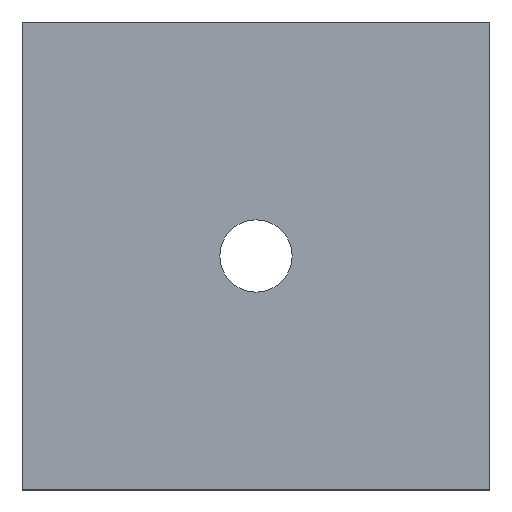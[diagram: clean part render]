
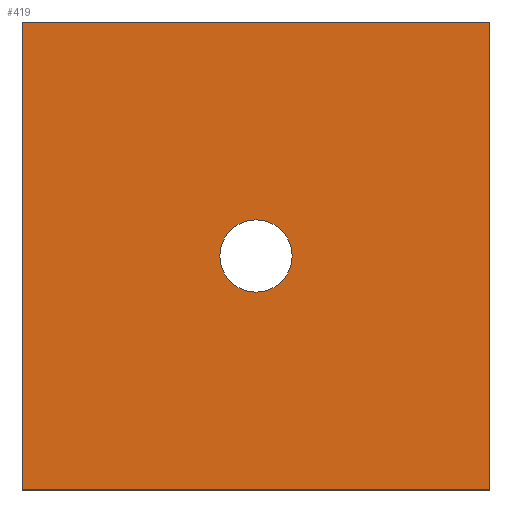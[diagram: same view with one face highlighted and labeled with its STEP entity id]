
A CAD part, top view. The second image highlights one B-rep face of the part: STEP entity #419.
In plain terms, the highlighted planar face has unit normal (0, 0, 1).
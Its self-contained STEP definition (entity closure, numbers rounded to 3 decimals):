
#24 = VERTEX_POINT('',#25);
#25 = CARTESIAN_POINT('',(-841.,-841.,3.));
#32 = PLANE('',#33);
#33 = AXIS2_PLACEMENT_3D('',#34,#35,#36);
#34 = CARTESIAN_POINT('',(-841.,-841.,0.));
#35 = DIRECTION('',(0.,1.,0.));
#36 = DIRECTION('',(1.,0.,0.));
#44 = PLANE('',#45);
#45 = AXIS2_PLACEMENT_3D('',#46,#47,#48);
#46 = CARTESIAN_POINT('',(-841.,841.,0.));
#47 = DIRECTION('',(1.,0.,-0.));
#48 = DIRECTION('',(0.,-1.,0.));
#56 = EDGE_CURVE('',#24,#57,#59,.T.);
#57 = VERTEX_POINT('',#58);
#58 = CARTESIAN_POINT('',(841.,-841.,3.));
#59 = SURFACE_CURVE('',#60,(#64,#71),.PCURVE_S1.);
#60 = LINE('',#61,#62);
#61 = CARTESIAN_POINT('',(-841.,-841.,3.));
#62 = VECTOR('',#63,1.);
#63 = DIRECTION('',(1.,0.,0.));
#64 = PCURVE('',#32,#65);
#65 = DEFINITIONAL_REPRESENTATION('',(#66),#70);
#66 = LINE('',#67,#68);
#67 = CARTESIAN_POINT('',(0.,-3.));
#68 = VECTOR('',#69,1.);
#69 = DIRECTION('',(1.,0.));
#70 = ( GEOMETRIC_REPRESENTATION_CONTEXT(2) 
PARAMETRIC_REPRESENTATION_CONTEXT() REPRESENTATION_CONTEXT('2D SPACE',''
  ) );
#71 = PCURVE('',#72,#77);
#72 = PLANE('',#73);
#73 = AXIS2_PLACEMENT_3D('',#74,#75,#76);
#74 = CARTESIAN_POINT('',(0.,0.,3.));
#75 = DIRECTION('',(0.,0.,1.));
#76 = DIRECTION('',(1.,0.,-0.));
#77 = DEFINITIONAL_REPRESENTATION('',(#78),#82);
#78 = LINE('',#79,#80);
#79 = CARTESIAN_POINT('',(-841.,-841.));
#80 = VECTOR('',#81,1.);
#81 = DIRECTION('',(1.,0.));
#82 = ( GEOMETRIC_REPRESENTATION_CONTEXT(2) 
PARAMETRIC_REPRESENTATION_CONTEXT() REPRESENTATION_CONTEXT('2D SPACE',''
  ) );
#100 = PLANE('',#101);
#101 = AXIS2_PLACEMENT_3D('',#102,#103,#104);
#102 = CARTESIAN_POINT('',(841.,-841.,0.));
#103 = DIRECTION('',(-1.,0.,0.));
#104 = DIRECTION('',(0.,1.,0.));
#142 = EDGE_CURVE('',#57,#143,#145,.T.);
#143 = VERTEX_POINT('',#144);
#144 = CARTESIAN_POINT('',(841.,841.,3.));
#145 = SURFACE_CURVE('',#146,(#150,#157),.PCURVE_S1.);
#146 = LINE('',#147,#148);
#147 = CARTESIAN_POINT('',(841.,-841.,3.));
#148 = VECTOR('',#149,1.);
#149 = DIRECTION('',(0.,1.,0.));
#150 = PCURVE('',#100,#151);
#151 = DEFINITIONAL_REPRESENTATION('',(#152),#156);
#152 = LINE('',#153,#154);
#153 = CARTESIAN_POINT('',(0.,-3.));
#154 = VECTOR('',#155,1.);
#155 = DIRECTION('',(1.,0.));
#156 = ( GEOMETRIC_REPRESENTATION_CONTEXT(2) 
PARAMETRIC_REPRESENTATION_CONTEXT() REPRESENTATION_CONTEXT('2D SPACE',''
  ) );
#157 = PCURVE('',#72,#158);
#158 = DEFINITIONAL_REPRESENTATION('',(#159),#163);
#159 = LINE('',#160,#161);
#160 = CARTESIAN_POINT('',(841.,-841.));
#161 = VECTOR('',#162,1.);
#162 = DIRECTION('',(0.,1.));
#163 = ( GEOMETRIC_REPRESENTATION_CONTEXT(2) 
PARAMETRIC_REPRESENTATION_CONTEXT() REPRESENTATION_CONTEXT('2D SPACE',''
  ) );
#181 = PLANE('',#182);
#182 = AXIS2_PLACEMENT_3D('',#183,#184,#185);
#183 = CARTESIAN_POINT('',(841.,841.,0.));
#184 = DIRECTION('',(0.,-1.,0.));
#185 = DIRECTION('',(-1.,0.,0.));
#218 = EDGE_CURVE('',#143,#219,#221,.T.);
#219 = VERTEX_POINT('',#220);
#220 = CARTESIAN_POINT('',(-841.,841.,3.));
#221 = SURFACE_CURVE('',#222,(#226,#233),.PCURVE_S1.);
#222 = LINE('',#223,#224);
#223 = CARTESIAN_POINT('',(841.,841.,3.));
#224 = VECTOR('',#225,1.);
#225 = DIRECTION('',(-1.,0.,0.));
#226 = PCURVE('',#181,#227);
#227 = DEFINITIONAL_REPRESENTATION('',(#228),#232);
#228 = LINE('',#229,#230);
#229 = CARTESIAN_POINT('',(0.,-3.));
#230 = VECTOR('',#231,1.);
#231 = DIRECTION('',(1.,0.));
#232 = ( GEOMETRIC_REPRESENTATION_CONTEXT(2) 
PARAMETRIC_REPRESENTATION_CONTEXT() REPRESENTATION_CONTEXT('2D SPACE',''
  ) );
#233 = PCURVE('',#72,#234);
#234 = DEFINITIONAL_REPRESENTATION('',(#235),#239);
#235 = LINE('',#236,#237);
#236 = CARTESIAN_POINT('',(841.,841.));
#237 = VECTOR('',#238,1.);
#238 = DIRECTION('',(-1.,0.));
#239 = ( GEOMETRIC_REPRESENTATION_CONTEXT(2) 
PARAMETRIC_REPRESENTATION_CONTEXT() REPRESENTATION_CONTEXT('2D SPACE',''
  ) );
#289 = EDGE_CURVE('',#219,#24,#290,.T.);
#290 = SURFACE_CURVE('',#291,(#295,#302),.PCURVE_S1.);
#291 = LINE('',#292,#293);
#292 = CARTESIAN_POINT('',(-841.,841.,3.));
#293 = VECTOR('',#294,1.);
#294 = DIRECTION('',(0.,-1.,0.));
#295 = PCURVE('',#44,#296);
#296 = DEFINITIONAL_REPRESENTATION('',(#297),#301);
#297 = LINE('',#298,#299);
#298 = CARTESIAN_POINT('',(0.,-3.));
#299 = VECTOR('',#300,1.);
#300 = DIRECTION('',(1.,0.));
#301 = ( GEOMETRIC_REPRESENTATION_CONTEXT(2) 
PARAMETRIC_REPRESENTATION_CONTEXT() REPRESENTATION_CONTEXT('2D SPACE',''
  ) );
#302 = PCURVE('',#72,#303);
#303 = DEFINITIONAL_REPRESENTATION('',(#304),#308);
#304 = LINE('',#305,#306);
#305 = CARTESIAN_POINT('',(-841.,841.));
#306 = VECTOR('',#307,1.);
#307 = DIRECTION('',(0.,-1.));
#308 = ( GEOMETRIC_REPRESENTATION_CONTEXT(2) 
PARAMETRIC_REPRESENTATION_CONTEXT() REPRESENTATION_CONTEXT('2D SPACE',''
  ) );
#338 = VERTEX_POINT('',#339);
#339 = CARTESIAN_POINT('',(130.,0.,3.));
#346 = CYLINDRICAL_SURFACE('',#347,130.);
#347 = AXIS2_PLACEMENT_3D('',#348,#349,#350);
#348 = CARTESIAN_POINT('',(0.,0.,0.));
#349 = DIRECTION('',(-0.,-0.,-1.));
#350 = DIRECTION('',(1.,0.,-0.));
#365 = EDGE_CURVE('',#338,#338,#366,.T.);
#366 = SURFACE_CURVE('',#367,(#372,#379),.PCURVE_S1.);
#367 = CIRCLE('',#368,130.);
#368 = AXIS2_PLACEMENT_3D('',#369,#370,#371);
#369 = CARTESIAN_POINT('',(0.,0.,3.));
#370 = DIRECTION('',(0.,0.,1.));
#371 = DIRECTION('',(1.,0.,-0.));
#372 = PCURVE('',#346,#373);
#373 = DEFINITIONAL_REPRESENTATION('',(#374),#378);
#374 = LINE('',#375,#376);
#375 = CARTESIAN_POINT('',(-0.,-3.));
#376 = VECTOR('',#377,1.);
#377 = DIRECTION('',(-1.,0.));
#378 = ( GEOMETRIC_REPRESENTATION_CONTEXT(2) 
PARAMETRIC_REPRESENTATION_CONTEXT() REPRESENTATION_CONTEXT('2D SPACE',''
  ) );
#379 = PCURVE('',#72,#380);
#380 = DEFINITIONAL_REPRESENTATION('',(#381),#385);
#381 = CIRCLE('',#382,130.);
#382 = AXIS2_PLACEMENT_2D('',#383,#384);
#383 = CARTESIAN_POINT('',(0.,0.));
#384 = DIRECTION('',(1.,0.));
#385 = ( GEOMETRIC_REPRESENTATION_CONTEXT(2) 
PARAMETRIC_REPRESENTATION_CONTEXT() REPRESENTATION_CONTEXT('2D SPACE',''
  ) );
#419 = ADVANCED_FACE('',(#420,#426),#72,.T.);
#420 = FACE_BOUND('',#421,.T.);
#421 = EDGE_LOOP('',(#422,#423,#424,#425));
#422 = ORIENTED_EDGE('',*,*,#56,.T.);
#423 = ORIENTED_EDGE('',*,*,#142,.T.);
#424 = ORIENTED_EDGE('',*,*,#218,.T.);
#425 = ORIENTED_EDGE('',*,*,#289,.T.);
#426 = FACE_BOUND('',#427,.F.);
#427 = EDGE_LOOP('',(#428));
#428 = ORIENTED_EDGE('',*,*,#365,.T.);
